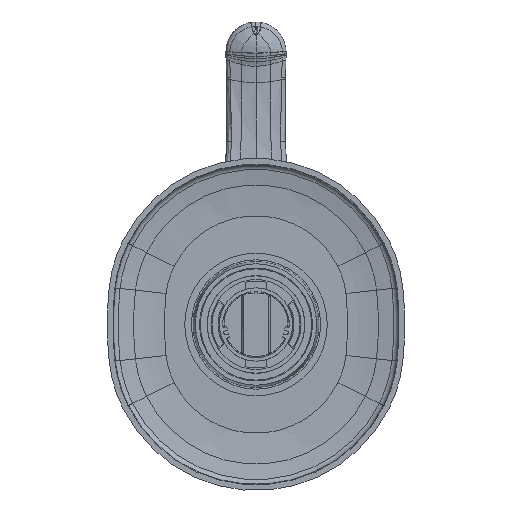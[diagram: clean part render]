
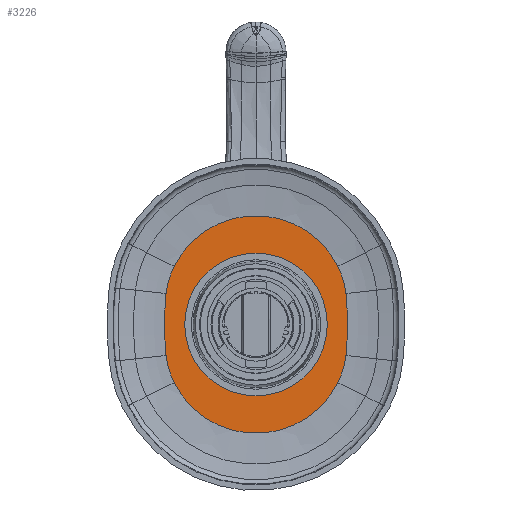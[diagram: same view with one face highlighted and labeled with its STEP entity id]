
A CAD part, front view. The second image highlights one B-rep face of the part: STEP entity #3226.
In plain terms, the highlighted planar face has unit normal (0, -1, 0).
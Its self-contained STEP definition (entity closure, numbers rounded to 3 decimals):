
#925=CARTESIAN_POINT('',(0.,48.5,-7.5));
#926=DIRECTION('',(0.,1.,0.));
#927=DIRECTION('',(0.894,0.,-0.447));
#928=AXIS2_PLACEMENT_3D('',#925,#926,#927);
#930=CARTESIAN_POINT('',(-4.472,48.5,-9.737));
#931=DIRECTION('',(0.,1.,0.));
#932=DIRECTION('',(-0.894,0.,-0.447));
#933=AXIS2_PLACEMENT_3D('',#930,#931,#932);
#935=CARTESIAN_POINT('',(85.,48.5,0.));
#936=DIRECTION('',(0.,1.,0.));
#937=DIRECTION('',(-0.994,0.,-0.108));
#938=AXIS2_PLACEMENT_3D('',#935,#936,#937);
#940=CARTESIAN_POINT('',(-4.472,48.5,9.737));
#941=DIRECTION('',(0.,1.,0.));
#942=DIRECTION('',(-0.994,0.,0.108));
#943=AXIS2_PLACEMENT_3D('',#940,#941,#942);
#945=CARTESIAN_POINT('',(0.,48.5,7.5));
#946=DIRECTION('',(0.,1.,0.));
#947=DIRECTION('',(-0.894,0.,0.447));
#948=AXIS2_PLACEMENT_3D('',#945,#946,#947);
#950=CARTESIAN_POINT('',(4.472,48.5,9.737));
#951=DIRECTION('',(0.,1.,0.));
#952=DIRECTION('',(0.894,0.,0.447));
#953=AXIS2_PLACEMENT_3D('',#950,#951,#952);
#955=CARTESIAN_POINT('',(-85.,48.5,0.));
#956=DIRECTION('',(0.,1.,0.));
#957=DIRECTION('',(0.994,0.,0.108));
#958=AXIS2_PLACEMENT_3D('',#955,#956,#957);
#960=CARTESIAN_POINT('',(4.472,48.5,-9.737));
#961=DIRECTION('',(0.,1.,0.));
#962=DIRECTION('',(0.994,0.,-0.108));
#963=AXIS2_PLACEMENT_3D('',#960,#961,#962);
#965=CARTESIAN_POINT('',(0.,48.5,0.));
#966=DIRECTION('',(0.,-1.,0.));
#967=DIRECTION('',(1.,0.,0.));
#968=AXIS2_PLACEMENT_3D('',#965,#966,#967);
#970=CARTESIAN_POINT('',(0.,48.5,0.));
#971=DIRECTION('',(0.,-1.,0.));
#972=DIRECTION('',(-1.,0.,0.));
#973=AXIS2_PLACEMENT_3D('',#970,#971,#972);
#1565=CARTESIAN_POINT('',(35.774,48.5,-25.395));
#1566=VERTEX_POINT('',#1565);
#1585=CARTESIAN_POINT('',(-35.774,48.5,-25.395));
#1586=VERTEX_POINT('',#1585);
#1605=CARTESIAN_POINT('',(-39.266,48.5,-13.523));
#1606=VERTEX_POINT('',#1605);
#1625=CARTESIAN_POINT('',(-39.266,48.5,13.523));
#1626=VERTEX_POINT('',#1625);
#1645=CARTESIAN_POINT('',(-35.774,48.5,25.395));
#1646=VERTEX_POINT('',#1645);
#1665=CARTESIAN_POINT('',(35.774,48.5,25.395));
#1666=VERTEX_POINT('',#1665);
#1685=CARTESIAN_POINT('',(39.266,48.5,13.523));
#1686=VERTEX_POINT('',#1685);
#1705=CARTESIAN_POINT('',(39.266,48.5,-13.523));
#1706=VERTEX_POINT('',#1705);
#1729=CARTESIAN_POINT('',(31.15,48.5,0.));
#1730=CARTESIAN_POINT('',(-31.15,48.5,0.));
#1731=VERTEX_POINT('',#1729);
#1732=VERTEX_POINT('',#1730);
#3198=CARTESIAN_POINT('',(0.,48.5,-7.5));
#3199=DIRECTION('',(0.,1.,0.));
#3200=DIRECTION('',(-0.894,0.,0.447));
#3201=AXIS2_PLACEMENT_3D('',#3198,#3199,#3200);
#3202=PLANE('',#3201);
#3204=ORIENTED_EDGE('',*,*,#3203,.T.);
#3206=ORIENTED_EDGE('',*,*,#3205,.T.);
#3208=ORIENTED_EDGE('',*,*,#3207,.T.);
#3210=ORIENTED_EDGE('',*,*,#3209,.T.);
#3212=ORIENTED_EDGE('',*,*,#3211,.T.);
#3214=ORIENTED_EDGE('',*,*,#3213,.T.);
#3216=ORIENTED_EDGE('',*,*,#3215,.T.);
#3218=ORIENTED_EDGE('',*,*,#3217,.T.);
#3219=EDGE_LOOP('',(#3204,#3206,#3208,#3210,#3212,#3214,#3216,#3218));
#3220=FACE_OUTER_BOUND('',#3219,.F.);
#3221=ORIENTED_EDGE('',*,*,#3188,.T.);
#3223=ORIENTED_EDGE('',*,*,#3222,.T.);
#3224=EDGE_LOOP('',(#3221,#3223));
#3225=FACE_BOUND('',#3224,.F.);
#3226=ADVANCED_FACE('',(#3220,#3225),#3202,.F.);
#929=CIRCLE('',#928,40.);
#934=CIRCLE('',#933,35.);
#939=CIRCLE('',#938,125.);
#944=CIRCLE('',#943,35.);
#949=CIRCLE('',#948,40.);
#954=CIRCLE('',#953,35.);
#959=CIRCLE('',#958,125.);
#964=CIRCLE('',#963,35.);
#969=CIRCLE('',#968,31.15);
#974=CIRCLE('',#973,31.15);
#3188=EDGE_CURVE('',#1731,#1732,#969,.T.);
#3203=EDGE_CURVE('',#1566,#1586,#929,.T.);
#3205=EDGE_CURVE('',#1586,#1606,#934,.T.);
#3207=EDGE_CURVE('',#1606,#1626,#939,.T.);
#3209=EDGE_CURVE('',#1626,#1646,#944,.T.);
#3211=EDGE_CURVE('',#1646,#1666,#949,.T.);
#3213=EDGE_CURVE('',#1666,#1686,#954,.T.);
#3215=EDGE_CURVE('',#1686,#1706,#959,.T.);
#3217=EDGE_CURVE('',#1706,#1566,#964,.T.);
#3222=EDGE_CURVE('',#1732,#1731,#974,.T.);
